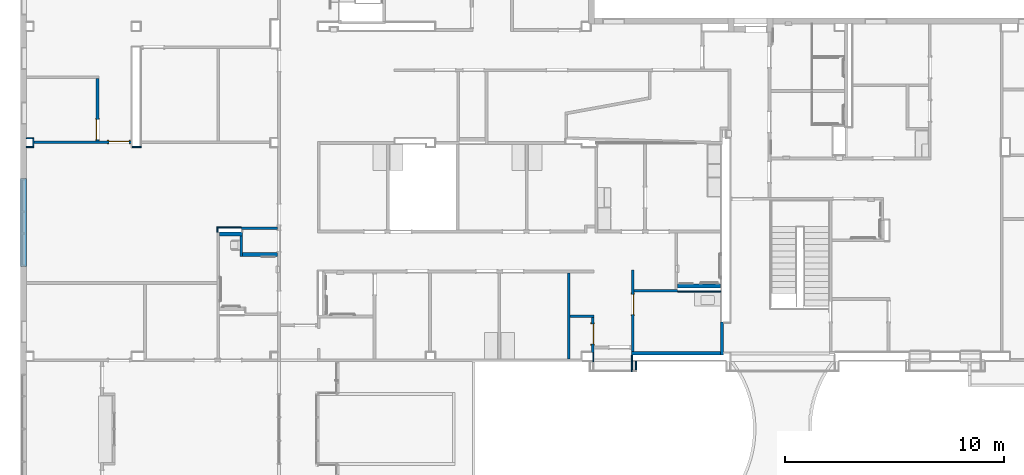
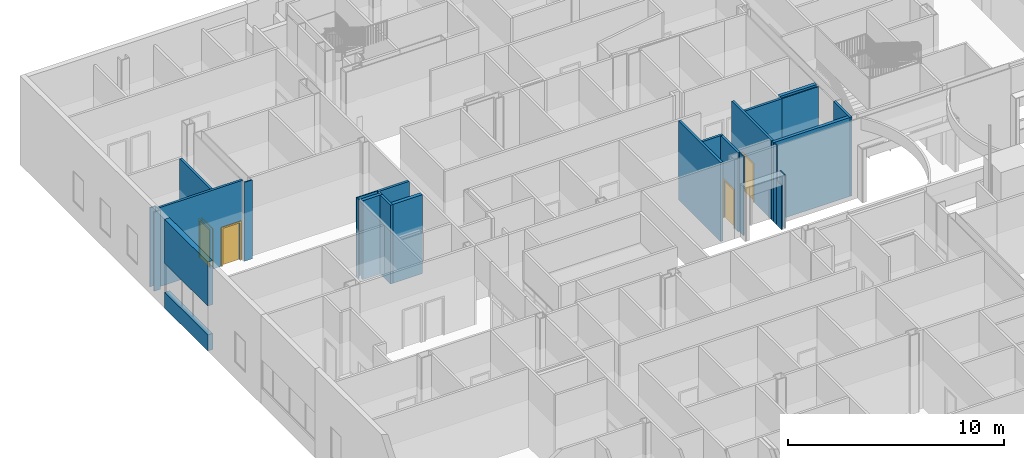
# One storey, part 30 of 87: 27 walls, 4 doors, 4 openings.
"""IFC2X3 building model written with IfcOpenShell, lengths in metres."""

from ifc_helpers import new_model, entity, si_unit, converted_unit, frame, frame_2d, origin, origin_2d_with_axis, place, context, project, spatial, polyline, rectangle, outline, extrude, source, transform, mapped, material, layer, layer_set, layer_usage, type_object, type_shapes, element, fill, save


model = new_model("IFC2X3")

# Units and contexts
model_context = context("Model", 3, precision=1e-09, world=origin())
plan_context = context("Plan", 3, precision=1e-09, world=origin())
ifc_project = project(units=[si_unit("LENGTHUNIT", "METRE"), si_unit("AREAUNIT", "SQUARE_METRE"), si_unit("VOLUMEUNIT", "CUBIC_METRE"), converted_unit("PLANEANGLEUNIT", "DEGREE", entity("IfcRatioMeasure", 0.01745329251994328), si_unit("PLANEANGLEUNIT", "RADIAN"), dimensions=[0, 0, 0, 0, 0, 0, 0]), si_unit("TIMEUNIT", "SECOND")], contexts=[model_context, plan_context])

# Site, building, storey
site_placement = place(None, origin())
site = spatial("IfcSite", under=ifc_project, at=site_placement, Name="Default", CompositionType="ELEMENT")
building_placement = place(site_placement, origin())
building = spatial("IfcBuilding", under=site, at=building_placement, CompositionType="ELEMENT")
storey_placement = place(building_placement, origin())
storey = spatial("IfcBuildingStorey", under=building, at=storey_placement, Name="First Floor", CompositionType="ELEMENT", Elevation=-3.531500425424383e-13)

# Wall, opening, door
ifc_material_1 = material(Name="Plasterboard")
ifc_layer_1 = layer(ifc_material_1, 0.016)
ifc_material_2 = material(Name="Metal - Stud Layer")
ifc_layer_2 = layer(ifc_material_2, 0.092)
ifc_layer_3 = layer(ifc_material_1, 0.016)
ifc_layer_set_1 = layer_set([ifc_layer_1, ifc_layer_2, ifc_layer_3], Name="Basic Wall:Interior - Partition (92mm Stud)")
ifc_layer_usage_1 = layer_usage(ifc_layer_set_1, "AXIS2", "NEGATIVE", 0.062)
wall_1_placement = place(storey_placement, frame((-48.76700000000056, 47.70599999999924, 0.0), z_axis=(0.0, 0.0, 1.0), x_axis=(0.0, -1.0, 0.0)))
wall_1 = element("IfcWallStandardCase", 1, at=wall_1_placement, inside=storey, material=ifc_layer_usage_1, Name="Basic Wall:Interior - Partition (92mm Stud)", ObjectType="Basic Wall:Interior - Partition (92mm Stud)", context=model_context, shape_type="SweptSolid", body=[
    extrude(rectangle(XDim=2.841999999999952, YDim=0.1240000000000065, at=frame_2d((1.420999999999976, 0.0), x_axis=(-1.0, 0.0))), origin(), (0.0, 0.0, 1.0), 4.46800000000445),
])
opening_1_placement = place(wall_1_placement, frame((2.781999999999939, 0.06199999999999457, 0.0)))
opening_1 = element("IfcOpeningElement", 2, at=opening_1_placement, cuts=wall_1, Name="M_Single-Flush:0915 x 2134mm:0915 x 2134mm:1", ObjectType="Opening", context=model_context, shape_type="SweptSolid", body=[
    extrude(rectangle(XDim=0.9149999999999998, YDim=2.134, at=frame_2d((1.067, 0.4574999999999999), x_axis=(0.0, -1.0))), frame((0.0, 0.0, 0.0), z_axis=(0.0, -1.0, 0.0), x_axis=(0.0, 0.0, 1.0)), (0.0, 0.0, 1.0), 0.124),
])
door_style_1 = type_object("IfcDoorStyle", Name="0915 x 2134mm", ConstructionType="NOTDEFINED", OperationType="SINGLE_SWING_LEFT", ParameterTakesPrecedence=False, Sizeable=False)
shared_shape_1 = source(origin(), model_context, "Body", "SweptSolid", [
    extrude(outline(polyline([(-0.5335, -1.123999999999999), (0.5334999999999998, -1.123999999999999), (0.5334999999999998, 1.086), (0.4574999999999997, 1.086), (0.4574999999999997, -1.048000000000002), (-0.4574999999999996, -1.048000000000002), (-0.4574999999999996, 1.086), (-0.5335, 1.086), (-0.5335, -1.123999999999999)])), frame((0.4575000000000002, 0.1489999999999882, 1.086), z_axis=(0.0, -1.0, 0.0), x_axis=(-1.0, 0.0, 0.0)), (0.0, 0.0, 1.0), 0.02499999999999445),
    extrude(outline(polyline([(-1.123999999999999, -0.5334999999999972), (1.085999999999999, -0.5334999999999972), (1.085999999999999, -0.4575000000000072), (-1.048, -0.4575000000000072), (-1.048, 0.4575000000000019), (1.085999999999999, 0.4575000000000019), (1.085999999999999, 0.5335000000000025), (-1.123999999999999, 0.5335000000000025), (-1.123999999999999, -0.5334999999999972)])), frame((0.4574999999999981, 0.0, 1.085999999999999), z_axis=(0.0, -1.0, 0.0), x_axis=(0.0, 0.0, -1.0)), (0.0, 0.0, 1.0), 0.02500000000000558),
    extrude(rectangle(XDim=0.9149999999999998, YDim=0.051, at=origin_2d_with_axis()), frame((0.4575000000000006, 0.09849999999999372, 0.0)), (0.0, 0.0, 1.0), 2.133999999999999),
])
type_shapes(door_style_1, [shared_shape_1])
door_1_placement = place(opening_1_placement, frame((0.0, 0.0, 0.0), z_axis=(0.0, 0.0, 1.0), x_axis=(-1.0, 0.0, 0.0)))
door_1 = element("IfcDoor", 3, at=door_1_placement, inside=storey, type_object=door_style_1, Name="M_Single-Flush:0915 x 2134mm:0915 x 2134mm", ObjectType="0915 x 2134mm", OverallHeight=2.134, OverallWidth=0.9149999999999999, context=model_context, shape_type="MappedRepresentation", body=[
    mapped(shared_shape_1, transform((0.0, 0.0, 0.0), scale=1.0)),
])
fill(opening_1, door_1)

ifc_layer_usage_2 = layer_usage(ifc_layer_set_1, "AXIS2", "NEGATIVE", 0.062)
wall_2_placement = place(storey_placement, frame((-47.16800000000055, 44.80199999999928, 0.0), z_axis=(0.0, 0.0, 1.0), x_axis=(-1.0, 0.0, 0.0)))
wall_2 = element("IfcWallStandardCase", 4, at=wall_2_placement, inside=storey, material=ifc_layer_usage_2, Name="Basic Wall:Interior - Partition (92mm Stud)", ObjectType="Basic Wall:Interior - Partition (92mm Stud)", context=model_context, shape_type="SweptSolid", body=[
    extrude(rectangle(XDim=4.502000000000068, YDim=0.1240000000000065, at=frame_2d((2.251000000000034, 0.0), x_axis=(-1.0, 0.0))), origin(), (0.0, 0.0, 1.0), 4.468000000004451),
])
opening_2_placement = place(wall_2_placement, frame((1.077000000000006, 0.06199999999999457, 0.0)))
opening_2 = element("IfcOpeningElement", 5, at=opening_2_placement, cuts=wall_2, Name="M_Single-Flush:0915 x 2134mm:0915 x 2134mm:1", ObjectType="Opening", context=model_context, shape_type="SweptSolid", body=[
    extrude(rectangle(XDim=0.9149999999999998, YDim=2.134, at=frame_2d((1.067, 0.4575), x_axis=(0.0, 1.0))), frame((0.0, 0.0, 0.0), z_axis=(0.0, -1.0, 0.0), x_axis=(0.0, 0.0, 1.0)), (0.0, 0.0, 1.0), 0.124),
])
door_style_2 = type_object("IfcDoorStyle", Name="0915 x 2134mm", ConstructionType="NOTDEFINED", OperationType="SINGLE_SWING_RIGHT", ParameterTakesPrecedence=False, Sizeable=False)
shared_shape_2 = source(origin(), model_context, "Body", "SweptSolid", [
    extrude(outline(polyline([(-0.5335, -1.123999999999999), (0.5334999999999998, -1.123999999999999), (0.5334999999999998, 1.086), (0.4574999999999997, 1.086), (0.4574999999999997, -1.048000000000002), (-0.4574999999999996, -1.048000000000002), (-0.4574999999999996, 1.086), (-0.5335, 1.086), (-0.5335, -1.123999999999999)])), frame((0.4575000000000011, 0.1239999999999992, 1.086), z_axis=(0.0, 1.0, 0.0), x_axis=(1.0, 0.0, 0.0)), (0.0, 0.0, 1.0), 0.02499999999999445),
    extrude(outline(polyline([(-1.123999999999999, -0.5334999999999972), (1.085999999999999, -0.5334999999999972), (1.085999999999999, -0.4575000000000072), (-1.048, -0.4575000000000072), (-1.048, 0.4575000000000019), (1.085999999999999, 0.4575000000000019), (1.085999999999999, 0.5335000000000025), (-1.123999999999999, 0.5335000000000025), (-1.123999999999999, -0.5334999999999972)])), frame((0.4575000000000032, -0.02500000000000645, 1.085999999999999), z_axis=(0.0, 1.0, 0.0), x_axis=(0.0, 0.0, -1.0)), (0.0, 0.0, 1.0), 0.02500000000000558),
    extrude(rectangle(XDim=0.051, YDim=0.9149999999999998, at=origin_2d_with_axis()), frame((0.4575000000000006, 0.09849999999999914, 0.0), z_axis=(0.0, 0.0, 1.0), x_axis=(0.0, 1.0, 0.0)), (0.0, 0.0, 1.0), 2.133999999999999),
])
type_shapes(door_style_2, [shared_shape_2])
door_2_placement = place(opening_2_placement, frame((0.0, 0.0, 0.0), z_axis=(0.0, 0.0, 1.0), x_axis=(-1.0, 0.0, 0.0)))
door_2 = element("IfcDoor", 6, at=door_2_placement, inside=storey, type_object=door_style_2, Name="M_Single-Flush:0915 x 2134mm:0915 x 2134mm", ObjectType="0915 x 2134mm", OverallHeight=2.134, OverallWidth=0.9149999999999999, context=model_context, shape_type="MappedRepresentation", body=[
    mapped(shared_shape_2, transform((0.0, 0.0, 0.0), scale=1.0)),
])
fill(opening_2, door_2)

# Walls
ifc_layer_usage_3 = layer_usage(ifc_layer_set_1, "AXIS2", "NEGATIVE", 0.062)
wall_3_placement = place(storey_placement, frame((-20.22800000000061, 36.58899999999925, 0.0), z_axis=(0.0, 0.0, 1.0), x_axis=(0.0, -1.0, 0.0)))
element("IfcWallStandardCase", 7, at=wall_3_placement, inside=storey, material=ifc_layer_usage_3, Name="Basic Wall:Interior - Partition (92mm Stud)", ObjectType="Basic Wall:Interior - Partition (92mm Stud)", context=model_context, shape_type="SweptSolid", body=[
    extrude(rectangle(XDim=1.516999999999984, YDim=0.1239999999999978, at=frame_2d((0.7584999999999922, 0.0), x_axis=(-1.0, 0.0))), origin(), (0.0, 0.0, 1.0), 4.46800000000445),
])
ifc_layer_4 = layer(ifc_material_2, 0.152)
ifc_layer_5 = layer(ifc_material_1, 0.016)
ifc_layer_set_2 = layer_set([ifc_layer_4, ifc_layer_5], Name="Basic Wall:Interior - Furring (152 mm Stud)")
ifc_layer_usage_4 = layer_usage(ifc_layer_set_2, "AXIS2", "POSITIVE", -0.08399999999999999)
wall_4_placement = place(storey_placement, frame((-24.37000000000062, 35.15599999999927, 0.0)))
element("IfcWallStandardCase", 8, at=wall_4_placement, inside=storey, material=ifc_layer_usage_4, Name="Basic Wall:Interior - Furring (152 mm Stud)", ObjectType="Basic Wall:Interior - Furring (152 mm Stud)", context=model_context, shape_type="SweptSolid", body=[
    extrude(rectangle(XDim=4.080000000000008, YDim=0.1679999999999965, at=frame_2d((2.040000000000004, 0.0), x_axis=(-1.0, 0.0))), origin(), (0.0, 0.0, 1.0), 4.46800000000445),
])

# Wall, opening, door
ifc_layer_usage_5 = layer_usage(ifc_layer_set_1, "AXIS2", "NEGATIVE", 0.062)
wall_5_placement = place(storey_placement, frame((-24.30800000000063, 35.23999999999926, 0.0), z_axis=(0.0, 0.0, 1.0), x_axis=(0.0, 1.0, 0.0)))
wall_5 = element("IfcWallStandardCase", 9, at=wall_5_placement, inside=storey, material=ifc_layer_usage_5, Name="Basic Wall:Interior - Partition (92mm Stud)", ObjectType="Basic Wall:Interior - Partition (92mm Stud)", context=model_context, shape_type="SweptSolid", body=[
    extrude(rectangle(XDim=3.710000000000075, YDim=0.1239999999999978, at=frame_2d((1.855000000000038, 0.0), x_axis=(-1.0, 0.0))), origin(), (0.0, 0.0, 1.0), 4.468000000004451),
])
opening_3_placement = place(wall_5_placement, frame((2.610000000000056, 0.06199999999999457, 0.0)))
opening_3 = element("IfcOpeningElement", 10, at=opening_3_placement, cuts=wall_5, Name="M_Single-Flush:0915 x 2134mm:0915 x 2134mm:1", ObjectType="Opening", context=model_context, shape_type="SweptSolid", body=[
    extrude(rectangle(XDim=0.9149999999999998, YDim=2.134, at=frame_2d((1.067, 0.4574999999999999), x_axis=(0.0, -1.0))), frame((0.0, 0.0, 0.0), z_axis=(0.0, -1.0, 0.0), x_axis=(0.0, 0.0, 1.0)), (0.0, 0.0, 1.0), 0.124),
])
door_3_placement = place(opening_3_placement, frame((0.0, 0.0, 0.0), z_axis=(0.0, 0.0, 1.0), x_axis=(-1.0, 0.0, 0.0)))
door_3 = element("IfcDoor", 11, at=door_3_placement, inside=storey, type_object=door_style_1, Name="M_Single-Flush:0915 x 2134mm:0915 x 2134mm", ObjectType="0915 x 2134mm", OverallHeight=2.134, OverallWidth=0.9149999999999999, context=model_context, shape_type="MappedRepresentation", body=[
    mapped(shared_shape_1, transform((0.0, 0.0, 0.0), scale=1.0)),
])
fill(opening_3, door_3)

# Walls
ifc_layer_usage_6 = layer_usage(ifc_layer_set_1, "AXIS2", "NEGATIVE", 0.062)
wall_6_placement = place(storey_placement, frame((-22.25600000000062, 38.01199999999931, 0.0), z_axis=(0.0, 0.0, 1.0), x_axis=(-1.0, 0.0, 0.0)))
element("IfcWallStandardCase", 12, at=wall_6_placement, inside=storey, material=ifc_layer_usage_6, Name="Basic Wall:Interior - Partition (92mm Stud)", ObjectType="Basic Wall:Interior - Partition (92mm Stud)", context=model_context, shape_type="SweptSolid", body=[
    extrude(rectangle(XDim=1.989999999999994, YDim=0.1239999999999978, at=frame_2d((0.9949999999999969, 0.0), x_axis=(-1.0, 0.0))), origin(), (0.0, 0.0, 1.0), 4.46800000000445),
])
ifc_layer_6 = layer(ifc_material_1, 0.016)
ifc_layer_7 = layer(ifc_material_2, 0.152)
ifc_layer_8 = layer(ifc_material_1, 0.016)
ifc_layer_set_3 = layer_set([ifc_layer_6, ifc_layer_7, ifc_layer_8], Name="Basic Wall:Interior - Plumbing (152mm Stud)")
ifc_layer_usage_7 = layer_usage(ifc_layer_set_3, "AXIS2", "NEGATIVE", 0.092)
wall_7_placement = place(storey_placement, frame((-22.25600000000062, 38.23799999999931, 0.0)))
element("IfcWallStandardCase", 13, at=wall_7_placement, inside=storey, material=ifc_layer_usage_7, Name="Basic Wall:Interior - Plumbing (152mm Stud)", ObjectType="Basic Wall:Interior - Plumbing (152mm Stud)", context=model_context, shape_type="SweptSolid", body=[
    extrude(rectangle(XDim=1.966000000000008, YDim=0.1840000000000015, at=frame_2d((0.983000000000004, 0.0), x_axis=(-1.0, 0.0))), origin(), (0.0, 0.0, 1.0), 4.46800000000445),
])
ifc_layer_usage_8 = layer_usage(ifc_layer_set_1, "AXIS2", "NEGATIVE", 0.062)
wall_8_placement = place(storey_placement, frame((-27.23200000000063, 38.82599999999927, 0.0), z_axis=(0.0, 0.0, 1.0), x_axis=(0.0, -1.0, 0.0)))
element("IfcWallStandardCase", 14, at=wall_8_placement, inside=storey, material=ifc_layer_usage_8, Name="Basic Wall:Interior - Partition (92mm Stud)", ObjectType="Basic Wall:Interior - Partition (92mm Stud)", context=model_context, shape_type="SweptSolid", body=[
    extrude(rectangle(XDim=3.922451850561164, YDim=0.1239999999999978, at=frame_2d((1.961225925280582, 0.0), x_axis=(-1.0, 0.0))), origin(), (0.0, 0.0, 1.0), 4.468000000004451),
])
ifc_layer_usage_9 = layer_usage(ifc_layer_set_1, "AXIS2", "NEGATIVE", 0.062)
wall_9_placement = place(storey_placement, frame((-27.17000000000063, 36.84799999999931, 0.0)))
element("IfcWallStandardCase", 15, at=wall_9_placement, inside=storey, material=ifc_layer_usage_9, Name="Basic Wall:Interior - Partition (92mm Stud)", ObjectType="Basic Wall:Interior - Partition (92mm Stud)", context=model_context, shape_type="SweptSolid", body=[
    extrude(rectangle(XDim=1.090000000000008, YDim=0.1239999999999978, at=frame_2d((0.5450000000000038, 0.0), x_axis=(-1.0, 0.0))), origin(), (0.0, 0.0, 1.0), 4.46800000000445),
])

# Wall, opening, door
ifc_layer_usage_10 = layer_usage(ifc_layer_set_1, "AXIS2", "NEGATIVE", 0.062)
wall_10_placement = place(storey_placement, frame((-26.14200000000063, 36.7859999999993, 0.0), z_axis=(0.0, 0.0, 1.0), x_axis=(0.0, -1.0, 0.0)))
wall_10 = element("IfcWallStandardCase", 16, at=wall_10_placement, inside=storey, material=ifc_layer_usage_10, Name="Basic Wall:Interior - Partition (92mm Stud)", ObjectType="Basic Wall:Interior - Partition (92mm Stud)", context=model_context, shape_type="SweptSolid", body=[
    extrude(rectangle(XDim=1.600000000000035, YDim=0.1239999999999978, at=frame_2d((0.8000000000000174, 0.0), x_axis=(-1.0, 0.0))), origin(), (0.0, 0.0, 1.0), 4.468000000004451),
])
opening_4_placement = place(wall_10_placement, frame((0.2909999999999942, -0.06200000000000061, 0.0)))
opening_4 = element("IfcOpeningElement", 17, at=opening_4_placement, cuts=wall_10, Name="M_Single-Flush:0915 x 2134mm:0915 x 2134mm:1", ObjectType="Opening", context=model_context, shape_type="SweptSolid", body=[
    extrude(rectangle(XDim=0.9149999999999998, YDim=2.134, at=frame_2d((1.067, 0.4575000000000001), x_axis=(0.0, -1.0))), frame((0.0, 0.0, 0.0), z_axis=(0.0, 1.0, 0.0), x_axis=(0.0, 0.0, 1.0)), (0.0, 0.0, 1.0), 0.124),
])
door_4_placement = place(opening_4_placement, origin())
door_4 = element("IfcDoor", 18, at=door_4_placement, inside=storey, type_object=door_style_1, Name="M_Single-Flush:0915 x 2134mm:0915 x 2134mm", ObjectType="0915 x 2134mm", OverallHeight=2.134, OverallWidth=0.9149999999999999, context=model_context, shape_type="MappedRepresentation", body=[
    mapped(shared_shape_1, transform((0.0, 0.0, 0.0), scale=1.0)),
])
fill(opening_4, door_4)

# Walls
ifc_layer_usage_11 = layer_usage(ifc_layer_set_1, "AXIS2", "NEGATIVE", 0.062)
wall_11_placement = place(storey_placement, frame((-42.18480000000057, 40.8679999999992, 0.0)))
element("IfcWallStandardCase", 19, at=wall_11_placement, inside=storey, material=ifc_layer_usage_11, Name="Basic Wall:Interior - Partition (92mm Stud)", ObjectType="Basic Wall:Interior - Partition (92mm Stud)", context=model_context, shape_type="SweptSolid", body=[
    extrude(rectangle(XDim=1.647799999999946, YDim=0.1240000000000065, at=frame_2d((0.823899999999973, 0.0), x_axis=(-1.0, 0.0))), origin(), (0.0, 0.0, 1.0), 4.468000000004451),
])
ifc_layer_usage_12 = layer_usage(ifc_layer_set_2, "AXIS2", "POSITIVE", -0.08399999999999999)
wall_12_placement = place(storey_placement, frame((-42.13080000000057, 40.60739999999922, 0.0), z_axis=(0.0, 0.0, 1.0), x_axis=(-1.0, 0.0, 0.0)))
element("IfcWallStandardCase", 20, at=wall_12_placement, inside=storey, material=ifc_layer_usage_12, Name="Basic Wall:Interior - Furring (152 mm Stud)", ObjectType="Basic Wall:Interior - Furring (152 mm Stud)", context=model_context, shape_type="SweptSolid", body=[
    extrude(rectangle(XDim=1.055200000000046, YDim=0.1679999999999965, at=frame_2d((0.527600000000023, 0.0), x_axis=(-1.0, 0.0))), origin(), (0.0, 0.0, 1.0), 4.468000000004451),
])
ifc_layer_usage_13 = layer_usage(ifc_layer_set_1, "AXIS2", "NEGATIVE", 0.062)
wall_13_placement = place(storey_placement, frame((-42.19280000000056, 39.57339999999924, 0.0), z_axis=(0.0, 0.0, 1.0), x_axis=(0.0, 1.0, 0.0)))
element("IfcWallStandardCase", 21, at=wall_13_placement, inside=storey, material=ifc_layer_usage_13, Name="Basic Wall:Interior - Partition (92mm Stud)", ObjectType="Basic Wall:Interior - Partition (92mm Stud)", context=model_context, shape_type="SweptSolid", body=[
    extrude(rectangle(XDim=0.9499999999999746, YDim=0.1240000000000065, at=frame_2d((0.4749999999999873, 0.0), x_axis=(-1.0, 0.0))), origin(), (0.0, 0.0, 1.0), 4.46800000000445),
])
ifc_layer_usage_14 = layer_usage(ifc_layer_set_3, "AXIS2", "NEGATIVE", 0.092)
wall_14_placement = place(storey_placement, frame((-40.53700000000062, 39.66539999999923, 0.0), z_axis=(0.0, 0.0, 1.0), x_axis=(-1.0, 0.0, 0.0)))
element("IfcWallStandardCase", 22, at=wall_14_placement, inside=storey, material=ifc_layer_usage_14, Name="Basic Wall:Interior - Plumbing (152mm Stud)", ObjectType="Basic Wall:Interior - Plumbing (152mm Stud)", context=model_context, shape_type="SweptSolid", body=[
    extrude(rectangle(XDim=1.593799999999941, YDim=0.1839999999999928, at=frame_2d((0.7968999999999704, 0.0), x_axis=(-1.0, 0.0))), origin(), (0.0, 0.0, 1.0), 4.46800000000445),
])
ifc_material_3 = material(Name="Insulation - Insulated Panel")
ifc_layer_9 = layer(ifc_material_3, 0.042)
ifc_material_4 = material(Name="Metal - Firring")
ifc_layer_10 = layer(ifc_material_4, 0.038)
ifc_material_5 = material(Name="Wood - Sheathing - plywood")
ifc_layer_11 = layer(ifc_material_5, 0.019)
ifc_layer_12 = layer(ifc_material_2, 0.152)
ifc_layer_13 = layer(ifc_material_1, 0.016)
ifc_layer_set_4 = layer_set([ifc_layer_9, ifc_layer_10, ifc_layer_11, ifc_layer_12, ifc_layer_13], Name="Basic Wall:Exterior - Insul Panel on Mtl. Stud")
ifc_layer_usage_15 = layer_usage(ifc_layer_set_4, "AXIS2", "NEGATIVE", 0.1335)
wall_15_placement = place(storey_placement, frame((-52.14650000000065, 39.12995228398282, 0.0), z_axis=(0.0, 0.0, 1.0), x_axis=(0.0, 1.0, 0.0)))
element("IfcWallStandardCase", 23, at=wall_15_placement, inside=storey, material=ifc_layer_usage_15, Name="Basic Wall:Exterior - Insul Panel on Mtl. Stud", ObjectType="Basic Wall:Exterior - Insul Panel on Mtl. Stud", context=model_context, shape_type="SweptSolid", body=[
    extrude(rectangle(XDim=4.0, YDim=0.2670000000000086, at=frame_2d((2.0, 0.0), x_axis=(-1.0, 0.0))), origin(), (0.0, 0.0, 1.0), 0.905),
])
ifc_layer_usage_16 = layer_usage(ifc_layer_set_4, "AXIS2", "NEGATIVE", 0.1335)
wall_16_placement = place(storey_placement, frame((-52.14650000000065, 39.12995228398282, 2.54), z_axis=(0.0, 0.0, 1.0), x_axis=(0.0, 1.0, 0.0)))
element("IfcWallStandardCase", 24, at=wall_16_placement, inside=storey, material=ifc_layer_usage_16, Name="Basic Wall:Exterior - Insul Panel on Mtl. Stud", ObjectType="Basic Wall:Exterior - Insul Panel on Mtl. Stud", context=model_context, shape_type="SweptSolid", body=[
    extrude(rectangle(XDim=4.0, YDim=0.2670000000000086, at=frame_2d((2.0, 0.0), x_axis=(-1.0, 0.0))), origin(), (0.0, 0.0, 1.0), 2.48700000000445),
])
ifc_layer_14 = layer(ifc_material_2, 0.038)
ifc_layer_15 = layer(ifc_material_1, 0.016)
ifc_layer_set_5 = layer_set([ifc_layer_14, ifc_layer_15], Name="Basic Wall:Interior - Furring (38 mm Stud)")
ifc_layer_usage_17 = layer_usage(ifc_layer_set_5, "AXIS2", "NEGATIVE", 0.027)
wall_17_placement = place(storey_placement, frame((-24.34300000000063, 35.07199999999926, 0.0), z_axis=(0.0, 0.0, 1.0), x_axis=(0.0, -1.0, 0.0)))
element("IfcWallStandardCase", 25, at=wall_17_placement, inside=storey, material=ifc_layer_usage_17, Name="Basic Wall:Interior - Furring (38 mm Stud)", ObjectType="Basic Wall:Interior - Furring (38 mm Stud)", context=model_context, shape_type="SweptSolid", body=[
    extrude(rectangle(XDim=0.2919999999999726, YDim=0.05399999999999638, at=frame_2d((0.1459999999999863, 0.0), x_axis=(-1.0, 0.0))), origin(), (0.0, 0.0, 1.0), 4.46800000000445),
])
ifc_layer_usage_18 = layer_usage(ifc_layer_set_5, "AXIS2", "NEGATIVE", 0.027)
wall_18_placement = place(storey_placement, frame((-24.16200000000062, 34.37400192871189, 0.0), z_axis=(0.0, 0.0, 1.0), x_axis=(0.0, 1.0, 0.0)))
element("IfcWallStandardCase", 26, at=wall_18_placement, inside=storey, material=ifc_layer_usage_18, Name="Basic Wall:Interior - Furring (38 mm Stud)", ObjectType="Basic Wall:Interior - Furring (38 mm Stud)", context=model_context, shape_type="SweptSolid", body=[
    extrude(rectangle(XDim=0.4059980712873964, YDim=0.05399999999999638, at=frame_2d((0.2029990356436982, 0.0), x_axis=(-1.0, 0.0))), origin(), (0.0, 0.0, 1.0), 3.0),
])
ifc_layer_usage_19 = layer_usage(ifc_layer_set_5, "AXIS2", "NEGATIVE", 0.027)
wall_19_placement = place(storey_placement, frame((-22.25600000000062, 37.97699999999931, 0.0)))
element("IfcWallStandardCase", 27, at=wall_19_placement, inside=storey, material=ifc_layer_usage_19, Name="Basic Wall:Interior - Furring (38 mm Stud)", ObjectType="Basic Wall:Interior - Furring (38 mm Stud)", context=model_context, shape_type="SweptSolid", body=[
    extrude(rectangle(XDim=1.966000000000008, YDim=0.05399999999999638, at=frame_2d((0.983000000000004, 0.0), x_axis=(-1.0, 0.0))), origin(), (0.0, 0.0, 1.0), 4.46800000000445),
])
ifc_layer_usage_20 = layer_usage(ifc_layer_set_5, "AXIS2", "NEGATIVE", 0.027)
wall_20_placement = place(storey_placement, frame((-42.18480000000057, 40.9029999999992, 0.0), z_axis=(0.0, 0.0, 1.0), x_axis=(-1.0, 0.0, 0.0)))
element("IfcWallStandardCase", 28, at=wall_20_placement, inside=storey, material=ifc_layer_usage_20, Name="Basic Wall:Interior - Furring (38 mm Stud)", ObjectType="Basic Wall:Interior - Furring (38 mm Stud)", context=model_context, shape_type="SweptSolid", body=[
    extrude(rectangle(XDim=1.12520000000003, YDim=0.05400000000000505, at=frame_2d((0.5626000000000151, 0.0), x_axis=(-1.0, 0.0))), origin(), (0.0, 0.0, 1.0), 4.46800000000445),
])
ifc_layer_usage_21 = layer_usage(ifc_layer_set_5, "AXIS2", "NEGATIVE", 0.027)
wall_21_placement = place(storey_placement, frame((-43.28300000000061, 40.8759999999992, 0.0), z_axis=(0.0, 0.0, 1.0), x_axis=(0.0, -1.0, 0.0)))
element("IfcWallStandardCase", 29, at=wall_21_placement, inside=storey, material=ifc_layer_usage_21, Name="Basic Wall:Interior - Furring (38 mm Stud)", ObjectType="Basic Wall:Interior - Furring (38 mm Stud)", context=model_context, shape_type="SweptSolid", body=[
    extrude(rectangle(XDim=0.184599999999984, YDim=0.05400000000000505, at=frame_2d((0.09229999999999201, 0.0), x_axis=(-1.0, 0.0))), origin(), (0.0, 0.0, 1.0), 4.46800000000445),
])
ifc_layer_usage_22 = layer_usage(ifc_layer_set_5, "AXIS2", "NEGATIVE", 0.027)
wall_22_placement = place(storey_placement, frame((-52.01300000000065, 44.57699999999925, 0.0)))
element("IfcWallStandardCase", 30, at=wall_22_placement, inside=storey, material=ifc_layer_usage_22, Name="Basic Wall:Interior - Furring (38 mm Stud)", ObjectType="Basic Wall:Interior - Furring (38 mm Stud)", context=model_context, shape_type="SweptSolid", body=[
    extrude(rectangle(XDim=0.3430000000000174, YDim=0.05400000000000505, at=frame_2d((0.1715000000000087, 0.0), x_axis=(-1.0, 0.0))), origin(), (0.0, 0.0, 1.0), 4.46800000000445),
])
ifc_layer_usage_23 = layer_usage(ifc_layer_set_5, "AXIS2", "NEGATIVE", 0.027)
wall_23_placement = place(storey_placement, frame((-51.69700000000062, 44.60399999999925, 0.0), z_axis=(0.0, 0.0, 1.0), x_axis=(0.0, 1.0, 0.0)))
element("IfcWallStandardCase", 31, at=wall_23_placement, inside=storey, material=ifc_layer_usage_23, Name="Basic Wall:Interior - Furring (38 mm Stud)", ObjectType="Basic Wall:Interior - Furring (38 mm Stud)", context=model_context, shape_type="SweptSolid", body=[
    extrude(rectangle(XDim=0.4059999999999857, YDim=0.05400000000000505, at=frame_2d((0.2029999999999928, 0.0), x_axis=(-1.0, 0.0))), origin(), (0.0, 0.0, 1.0), 4.468000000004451),
])
ifc_layer_usage_24 = layer_usage(ifc_layer_set_5, "AXIS2", "NEGATIVE", 0.027)
wall_24_placement = place(storey_placement, frame((-51.72400000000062, 44.98299999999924, 0.0), z_axis=(0.0, 0.0, 1.0), x_axis=(-1.0, 0.0, 0.0)))
element("IfcWallStandardCase", 32, at=wall_24_placement, inside=storey, material=ifc_layer_usage_24, Name="Basic Wall:Interior - Furring (38 mm Stud)", ObjectType="Basic Wall:Interior - Furring (38 mm Stud)", context=model_context, shape_type="SweptSolid", body=[
    extrude(rectangle(XDim=0.2890000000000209, YDim=0.05400000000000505, at=frame_2d((0.1445000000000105, 0.0), x_axis=(-1.0, 0.0))), origin(), (0.0, 0.0, 1.0), 4.46800000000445),
])
ifc_layer_usage_25 = layer_usage(ifc_layer_set_5, "AXIS2", "NEGATIVE", 0.027)
wall_25_placement = place(storey_placement, frame((-47.17600000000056, 44.57699999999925, 0.0)))
element("IfcWallStandardCase", 33, at=wall_25_placement, inside=storey, material=ifc_layer_usage_25, Name="Basic Wall:Interior - Furring (38 mm Stud)", ObjectType="Basic Wall:Interior - Furring (38 mm Stud)", context=model_context, shape_type="SweptSolid", body=[
    extrude(rectangle(XDim=0.4059999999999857, YDim=0.05400000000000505, at=frame_2d((0.2029999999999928, 0.0), x_axis=(-1.0, 0.0))), origin(), (0.0, 0.0, 1.0), 4.46800000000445),
])
ifc_layer_usage_26 = layer_usage(ifc_layer_set_5, "AXIS2", "NEGATIVE", 0.027)
wall_26_placement = place(storey_placement, frame((-24.34300000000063, 34.77999999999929, 0.0), z_axis=(0.0, 0.0, 1.0), x_axis=(0.0, -1.0, 0.0)))
element("IfcWallStandardCase", 34, at=wall_26_placement, inside=storey, material=ifc_layer_usage_26, Name="Basic Wall:Interior - Furring (38 mm Stud)", ObjectType="Basic Wall:Interior - Furring (38 mm Stud)", context=model_context, shape_type="SweptSolid", body=[
    extrude(rectangle(XDim=0.4599980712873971, YDim=0.05399999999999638, at=frame_2d((0.2299990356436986, 0.0), x_axis=(-1.0, 0.0))), origin(), (0.0, 0.0, 1.0), 2.5),
])
ifc_layer_usage_27 = layer_usage(ifc_layer_set_5, "AXIS2", "NEGATIVE", 0.027)
wall_27_placement = place(storey_placement, frame((-26.10700000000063, 34.77954814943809, 0.0), z_axis=(0.0, 0.0, 1.0), x_axis=(0.0, 1.0, 0.0)))
element("IfcWallStandardCase", 35, at=wall_27_placement, inside=storey, material=ifc_layer_usage_27, Name="Basic Wall:Interior - Furring (38 mm Stud)", ObjectType="Basic Wall:Interior - Furring (38 mm Stud)", context=model_context, shape_type="SweptSolid", body=[
    extrude(rectangle(XDim=0.4064518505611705, YDim=0.05400000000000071, at=frame_2d((0.2032259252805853, 0.0), x_axis=(-1.0, 0.0))), origin(), (0.0, 0.0, 1.0), 4.46800000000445),
])

save(model, "model.ifc")
